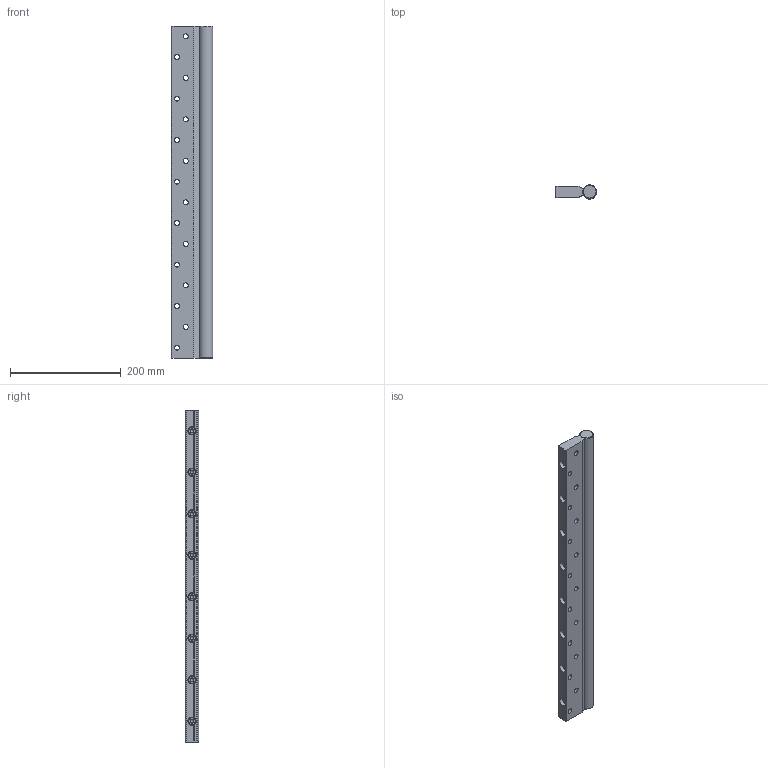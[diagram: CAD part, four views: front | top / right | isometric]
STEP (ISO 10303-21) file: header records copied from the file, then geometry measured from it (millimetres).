
FILE_DESCRIPTION(('STEP AP203'),'1');
FILE_NAME('SGY25-600.stp','2022-07-07T04:53:26',(' '),(' '),'Spatial InterOp 3D',' ',' ');
FILE_SCHEMA(('CONFIG_CONTROL_DESIGN'));
Length unit declared in the file: millimetre
Products named in the file (4): SGY25-600; M8-50; OP25-600_SRY; SRY-25
Assembly tree (10 placements, depth 2):
  SGY25-600
    M8-50  x8
    OP25-600_SRY
    SRY-25
Bounding box: 74.5 x 25 x 600 mm (x, y, z)
Volume: 804116 mm3; surface area: 170661.2 mm2
Topology: 10 solids, 10 shells, 289 faces, 621 edges, 368 vertices
Faces by surface type: plane 118, cone 82, cylinder 81, torus 8
Full cylindrical faces by diameter (mm): 6.8 x16, 8 x8, 9 x24, 13 x8, 15 x24, 25 x1
Entity records: 4952 total; most frequent: CARTESIAN_POINT 1458, DIRECTION 672, ORIENTED_EDGE 482, AXIS2_PLACEMENT_3D 306, EDGE_LOOP 280, EDGE_CURVE 241, FACE_OUTER_BOUND 210, VERTEX_POINT 204
